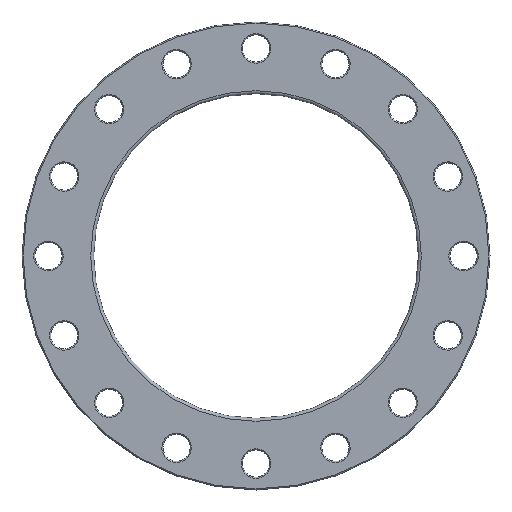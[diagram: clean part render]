
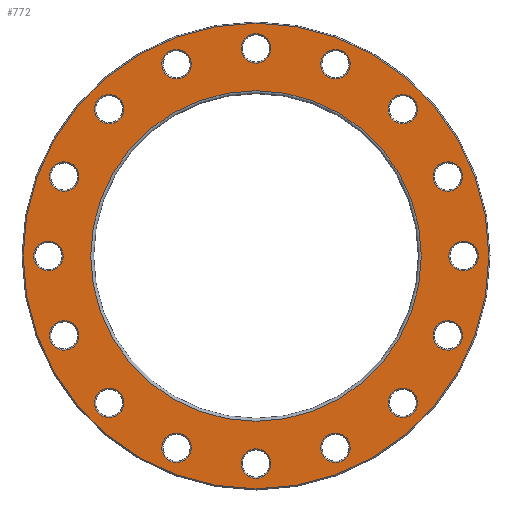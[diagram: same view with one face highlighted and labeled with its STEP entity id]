
A CAD part, front view. The second image highlights one B-rep face of the part: STEP entity #772.
In plain terms, the highlighted planar face has unit normal (0, -1, 0).
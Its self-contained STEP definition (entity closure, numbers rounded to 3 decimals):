
#23=PLANE('',#908);
#170=ORIENTED_EDGE('',*,*,#269,.T.);
#171=ORIENTED_EDGE('',*,*,#270,.T.);
#172=ORIENTED_EDGE('',*,*,#204,.T.);
#173=ORIENTED_EDGE('',*,*,#208,.T.);
#174=ORIENTED_EDGE('',*,*,#212,.T.);
#175=ORIENTED_EDGE('',*,*,#216,.T.);
#176=ORIENTED_EDGE('',*,*,#220,.T.);
#177=ORIENTED_EDGE('',*,*,#224,.T.);
#178=ORIENTED_EDGE('',*,*,#228,.T.);
#179=ORIENTED_EDGE('',*,*,#232,.T.);
#180=ORIENTED_EDGE('',*,*,#236,.T.);
#181=ORIENTED_EDGE('',*,*,#240,.T.);
#182=ORIENTED_EDGE('',*,*,#244,.T.);
#183=ORIENTED_EDGE('',*,*,#248,.T.);
#184=ORIENTED_EDGE('',*,*,#252,.T.);
#185=ORIENTED_EDGE('',*,*,#256,.T.);
#186=ORIENTED_EDGE('',*,*,#260,.T.);
#187=ORIENTED_EDGE('',*,*,#271,.T.);
#204=EDGE_CURVE('',#276,#276,#348,.T.);
#208=EDGE_CURVE('',#280,#280,#352,.T.);
#212=EDGE_CURVE('',#284,#284,#356,.T.);
#216=EDGE_CURVE('',#288,#288,#360,.T.);
#220=EDGE_CURVE('',#292,#292,#364,.T.);
#224=EDGE_CURVE('',#296,#296,#368,.T.);
#228=EDGE_CURVE('',#300,#300,#372,.T.);
#232=EDGE_CURVE('',#304,#304,#376,.T.);
#236=EDGE_CURVE('',#308,#308,#380,.T.);
#240=EDGE_CURVE('',#312,#312,#384,.T.);
#244=EDGE_CURVE('',#316,#316,#388,.T.);
#248=EDGE_CURVE('',#320,#320,#392,.T.);
#252=EDGE_CURVE('',#324,#324,#396,.T.);
#256=EDGE_CURVE('',#328,#328,#400,.T.);
#260=EDGE_CURVE('',#332,#332,#404,.T.);
#269=EDGE_CURVE('',#341,#341,#413,.F.);
#270=EDGE_CURVE('',#342,#342,#414,.T.);
#271=EDGE_CURVE('',#343,#343,#415,.T.);
#276=VERTEX_POINT('',#1187);
#280=VERTEX_POINT('',#1198);
#284=VERTEX_POINT('',#1209);
#288=VERTEX_POINT('',#1220);
#292=VERTEX_POINT('',#1231);
#296=VERTEX_POINT('',#1242);
#300=VERTEX_POINT('',#1253);
#304=VERTEX_POINT('',#1264);
#308=VERTEX_POINT('',#1275);
#312=VERTEX_POINT('',#1286);
#316=VERTEX_POINT('',#1297);
#320=VERTEX_POINT('',#1308);
#324=VERTEX_POINT('',#1319);
#328=VERTEX_POINT('',#1330);
#332=VERTEX_POINT('',#1341);
#341=VERTEX_POINT('',#1364);
#342=VERTEX_POINT('',#1366);
#343=VERTEX_POINT('',#1368);
#348=CIRCLE('',#797,19.5);
#352=CIRCLE('',#804,19.5);
#356=CIRCLE('',#811,19.5);
#360=CIRCLE('',#818,19.5);
#364=CIRCLE('',#825,19.5);
#368=CIRCLE('',#832,19.5);
#372=CIRCLE('',#839,19.5);
#376=CIRCLE('',#846,19.5);
#380=CIRCLE('',#853,19.5);
#384=CIRCLE('',#860,19.5);
#388=CIRCLE('',#867,19.5);
#392=CIRCLE('',#874,19.5);
#396=CIRCLE('',#881,19.5);
#400=CIRCLE('',#888,19.5);
#404=CIRCLE('',#895,19.5);
#413=CIRCLE('',#909,308.5);
#414=CIRCLE('',#910,219.);
#415=CIRCLE('',#911,19.5);
#530=EDGE_LOOP('',(#170));
#531=EDGE_LOOP('',(#171));
#532=EDGE_LOOP('',(#172));
#533=EDGE_LOOP('',(#173));
#534=EDGE_LOOP('',(#174));
#535=EDGE_LOOP('',(#175));
#536=EDGE_LOOP('',(#176));
#537=EDGE_LOOP('',(#177));
#538=EDGE_LOOP('',(#178));
#539=EDGE_LOOP('',(#179));
#540=EDGE_LOOP('',(#180));
#541=EDGE_LOOP('',(#181));
#542=EDGE_LOOP('',(#182));
#543=EDGE_LOOP('',(#183));
#544=EDGE_LOOP('',(#184));
#545=EDGE_LOOP('',(#185));
#546=EDGE_LOOP('',(#186));
#547=EDGE_LOOP('',(#187));
#674=FACE_BOUND('',#530,.T.);
#675=FACE_BOUND('',#531,.T.);
#676=FACE_BOUND('',#532,.T.);
#677=FACE_BOUND('',#533,.T.);
#678=FACE_BOUND('',#534,.T.);
#679=FACE_BOUND('',#535,.T.);
#680=FACE_BOUND('',#536,.T.);
#681=FACE_BOUND('',#537,.T.);
#682=FACE_BOUND('',#538,.T.);
#683=FACE_BOUND('',#539,.T.);
#684=FACE_BOUND('',#540,.T.);
#685=FACE_BOUND('',#541,.T.);
#686=FACE_BOUND('',#542,.T.);
#687=FACE_BOUND('',#543,.T.);
#688=FACE_BOUND('',#544,.T.);
#689=FACE_BOUND('',#545,.T.);
#690=FACE_BOUND('',#546,.T.);
#691=FACE_BOUND('',#547,.T.);
#772=ADVANCED_FACE('',(#674,#675,#676,#677,#678,#679,#680,#681,#682,#683,
#684,#685,#686,#687,#688,#689,#690,#691),#23,.F.);
#797=AXIS2_PLACEMENT_3D('',#1186,#931,#932);
#804=AXIS2_PLACEMENT_3D('',#1197,#945,#946);
#811=AXIS2_PLACEMENT_3D('',#1208,#959,#960);
#818=AXIS2_PLACEMENT_3D('',#1219,#973,#974);
#825=AXIS2_PLACEMENT_3D('',#1230,#987,#988);
#832=AXIS2_PLACEMENT_3D('',#1241,#1001,#1002);
#839=AXIS2_PLACEMENT_3D('',#1252,#1015,#1016);
#846=AXIS2_PLACEMENT_3D('',#1263,#1029,#1030);
#853=AXIS2_PLACEMENT_3D('',#1274,#1043,#1044);
#860=AXIS2_PLACEMENT_3D('',#1285,#1057,#1058);
#867=AXIS2_PLACEMENT_3D('',#1296,#1071,#1072);
#874=AXIS2_PLACEMENT_3D('',#1307,#1085,#1086);
#881=AXIS2_PLACEMENT_3D('',#1318,#1099,#1100);
#888=AXIS2_PLACEMENT_3D('',#1329,#1113,#1114);
#895=AXIS2_PLACEMENT_3D('',#1340,#1127,#1128);
#908=AXIS2_PLACEMENT_3D('',#1362,#1153,#1154);
#909=AXIS2_PLACEMENT_3D('',#1363,#1155,#1156);
#910=AXIS2_PLACEMENT_3D('',#1365,#1157,#1158);
#911=AXIS2_PLACEMENT_3D('',#1367,#1159,#1160);
#931=DIRECTION('',(0.,1.,0.));
#932=DIRECTION('',(0.924,0.,0.383));
#945=DIRECTION('',(0.,1.,0.));
#946=DIRECTION('',(0.707,0.,0.707));
#959=DIRECTION('',(0.,1.,0.));
#960=DIRECTION('',(0.383,0.,0.924));
#973=DIRECTION('',(0.,1.,0.));
#974=DIRECTION('',(0.,0.,1.));
#987=DIRECTION('',(0.,1.,0.));
#988=DIRECTION('',(-0.383,0.,0.924));
#1001=DIRECTION('',(0.,1.,0.));
#1002=DIRECTION('',(-0.707,0.,0.707));
#1015=DIRECTION('',(0.,1.,0.));
#1016=DIRECTION('',(-0.924,0.,0.383));
#1029=DIRECTION('',(0.,1.,0.));
#1030=DIRECTION('',(-1.,0.,0.));
#1043=DIRECTION('',(0.,1.,0.));
#1044=DIRECTION('',(-0.924,0.,-0.383));
#1057=DIRECTION('',(0.,1.,0.));
#1058=DIRECTION('',(-0.707,0.,-0.707));
#1071=DIRECTION('',(0.,1.,0.));
#1072=DIRECTION('',(-0.383,0.,-0.924));
#1085=DIRECTION('',(0.,1.,0.));
#1086=DIRECTION('',(0.,0.,-1.));
#1099=DIRECTION('',(0.,1.,0.));
#1100=DIRECTION('',(0.383,0.,-0.924));
#1113=DIRECTION('',(0.,1.,0.));
#1114=DIRECTION('',(0.707,0.,-0.707));
#1127=DIRECTION('',(0.,1.,0.));
#1128=DIRECTION('',(0.924,0.,-0.383));
#1153=DIRECTION('',(0.,1.,0.));
#1154=DIRECTION('',(0.,0.,1.));
#1155=DIRECTION('',(0.,1.,0.));
#1156=DIRECTION('',(0.,0.,1.));
#1157=DIRECTION('',(0.,1.,0.));
#1158=DIRECTION('',(0.,0.,1.));
#1159=DIRECTION('',(0.,1.,0.));
#1160=DIRECTION('',(1.,0.,0.));
#1186=CARTESIAN_POINT('',(-105.238,0.,254.067));
#1187=CARTESIAN_POINT('',(-87.222,0.,261.529));
#1197=CARTESIAN_POINT('',(-194.454,0.,194.454));
#1198=CARTESIAN_POINT('',(-180.666,0.,208.243));
#1208=CARTESIAN_POINT('',(-254.067,0.,105.238));
#1209=CARTESIAN_POINT('',(-246.605,0.,123.254));
#1219=CARTESIAN_POINT('',(-275.,0.,0.));
#1220=CARTESIAN_POINT('',(-275.,0.,19.5));
#1230=CARTESIAN_POINT('',(-254.067,0.,-105.238));
#1231=CARTESIAN_POINT('',(-261.529,0.,-87.222));
#1241=CARTESIAN_POINT('',(-194.454,0.,-194.454));
#1242=CARTESIAN_POINT('',(-208.243,0.,-180.666));
#1252=CARTESIAN_POINT('',(-105.238,0.,-254.067));
#1253=CARTESIAN_POINT('',(-123.254,0.,-246.605));
#1263=CARTESIAN_POINT('',(0.,0.,-275.));
#1264=CARTESIAN_POINT('',(-19.5,0.,-275.));
#1274=CARTESIAN_POINT('',(105.238,0.,-254.067));
#1275=CARTESIAN_POINT('',(87.222,0.,-261.529));
#1285=CARTESIAN_POINT('',(194.454,0.,-194.454));
#1286=CARTESIAN_POINT('',(180.666,0.,-208.243));
#1296=CARTESIAN_POINT('',(254.067,0.,-105.238));
#1297=CARTESIAN_POINT('',(246.605,0.,-123.254));
#1307=CARTESIAN_POINT('',(275.,0.,0.));
#1308=CARTESIAN_POINT('',(275.,0.,-19.5));
#1318=CARTESIAN_POINT('',(254.067,0.,105.238));
#1319=CARTESIAN_POINT('',(261.529,0.,87.222));
#1329=CARTESIAN_POINT('',(194.454,0.,194.454));
#1330=CARTESIAN_POINT('',(208.243,0.,180.666));
#1340=CARTESIAN_POINT('',(105.238,0.,254.067));
#1341=CARTESIAN_POINT('',(123.254,0.,246.605));
#1362=CARTESIAN_POINT('',(0.,0.,0.));
#1363=CARTESIAN_POINT('',(0.,0.,0.));
#1364=CARTESIAN_POINT('',(0.,0.,308.5));
#1365=CARTESIAN_POINT('',(0.,0.,0.));
#1366=CARTESIAN_POINT('',(0.,0.,219.));
#1367=CARTESIAN_POINT('',(0.,0.,275.));
#1368=CARTESIAN_POINT('',(19.5,0.,275.));
